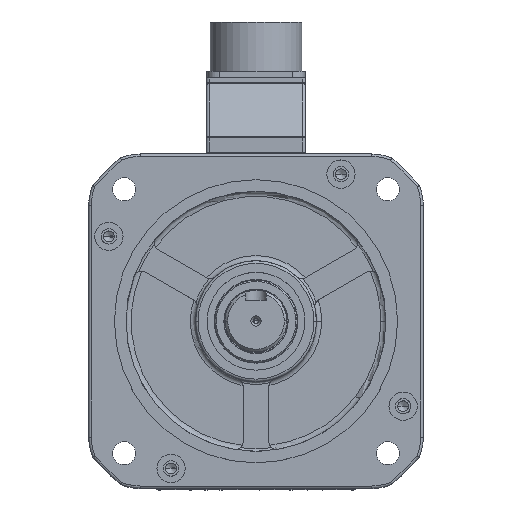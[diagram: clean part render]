
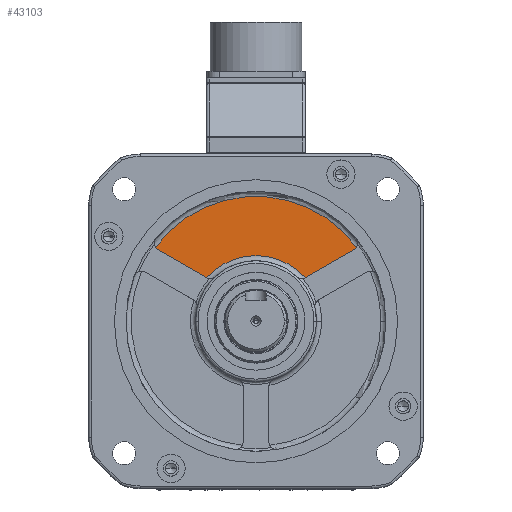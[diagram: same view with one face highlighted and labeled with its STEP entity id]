
A CAD part, top view. The second image highlights one B-rep face of the part: STEP entity #43103.
In plain terms, the highlighted planar face has unit normal (0, 0, 1).
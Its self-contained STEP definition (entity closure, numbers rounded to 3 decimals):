
#25 = CIRCLE ( 'NONE', #70859, 3. ) ;
#1523 = CARTESIAN_POINT ( 'NONE',  ( 0., 0., 0.5 ) ) ;
#1854 = CIRCLE ( 'NONE', #15210, 3. ) ;
#2088 = DIRECTION ( 'NONE',  ( 1., 0., 0. ) ) ;
#4271 = ORIENTED_EDGE ( 'NONE', *, *, #24203, .T. ) ;
#5221 = VERTEX_POINT ( 'NONE', #26038 ) ;
#6080 = CARTESIAN_POINT ( 'NONE',  ( 0., 0., 0.5 ) ) ;
#7171 = DIRECTION ( 'NONE',  ( 1., 0., 0. ) ) ;
#8283 = CARTESIAN_POINT ( 'NONE',  ( -39.078, 28.726, 0.5 ) ) ;
#8356 = CARTESIAN_POINT ( 'NONE',  ( -17.879, 19.56, 0.5 ) ) ;
#10527 = VERTEX_POINT ( 'NONE', #44608 ) ;
#11227 = DIRECTION ( 'NONE',  ( 0., 0., 1. ) ) ;
#13427 = CARTESIAN_POINT ( 'NONE',  ( 17.879, 19.56, 0.5 ) ) ;
#13593 = CARTESIAN_POINT ( 'NONE',  ( -36.549, 30.339, 0.5 ) ) ;
#15210 = AXIS2_PLACEMENT_3D ( 'NONE', #52001, #44496, #19004 ) ;
#15657 = CARTESIAN_POINT ( 'NONE',  ( -2.5, 4.33, 0.5 ) ) ;
#16674 = DIRECTION ( 'NONE',  ( 1., 0., 0. ) ) ;
#18220 = DIRECTION ( 'NONE',  ( 1., 0., 0. ) ) ;
#19004 = DIRECTION ( 'NONE',  ( 1., 0., 0. ) ) ;
#19459 = DIRECTION ( 'NONE',  ( 1., 0., 0. ) ) ;
#19762 = CARTESIAN_POINT ( 'NONE',  ( 38.049, 27.741, 0.5 ) ) ;
#20546 = DIRECTION ( 'NONE',  ( 0., 0., 1. ) ) ;
#21052 = CIRCLE ( 'NONE', #69111, 3. ) ;
#21678 = AXIS2_PLACEMENT_3D ( 'NONE', #1523, #57157, #52114 ) ;
#22542 = CARTESIAN_POINT ( 'NONE',  ( 39.078, 28.726, 0.5 ) ) ;
#24203 = EDGE_CURVE ( 'NONE', #60634, #10527, #21052, .T. ) ;
#24626 = LINE ( 'NONE', #69789, #72233 ) ;
#25688 = CIRCLE ( 'NONE', #21678, 25.5 ) ;
#26038 = CARTESIAN_POINT ( 'NONE',  ( 19.147, 16.841, 0.5 ) ) ;
#28292 = CARTESIAN_POINT ( 'NONE',  ( -19.379, 16.962, 0.5 ) ) ;
#35909 = DIRECTION ( 'NONE',  ( -0.866, 0.5, 0. ) ) ;
#36229 = EDGE_CURVE ( 'NONE', #51847, #55439, #1854, .T. ) ;
#37581 = PLANE ( 'NONE',  #59040 ) ;
#38264 = DIRECTION ( 'NONE',  ( 0., 0., 1. ) ) ;
#38376 = ORIENTED_EDGE ( 'NONE', *, *, #66918, .T. ) ;
#39112 = DIRECTION ( 'NONE',  ( 0., 0., 1. ) ) ;
#40420 = CIRCLE ( 'NONE', #45797, 3. ) ;
#40562 = EDGE_CURVE ( 'NONE', #60634, #48991, #24626, .T. ) ;
#41159 = DIRECTION ( 'NONE',  ( 0.866, 0.5, 0. ) ) ;
#42352 = CARTESIAN_POINT ( 'NONE',  ( 19.379, 16.962, 0.5 ) ) ;
#43103 = ADVANCED_FACE ( 'NONE', ( #55979 ), #37581, .T. ) ;
#43193 = AXIS2_PLACEMENT_3D ( 'NONE', #6080, #38264, #18220 ) ;
#44496 = DIRECTION ( 'NONE',  ( 0., 0., 1. ) ) ;
#44608 = CARTESIAN_POINT ( 'NONE',  ( -19.147, 16.841, 0.5 ) ) ;
#45797 = AXIS2_PLACEMENT_3D ( 'NONE', #13593, #39112, #19459 ) ;
#48811 = ORIENTED_EDGE ( 'NONE', *, *, #61924, .T. ) ;
#48991 = VERTEX_POINT ( 'NONE', #71444 ) ;
#49890 = CIRCLE ( 'NONE', #43193, 48.5 ) ;
#49992 = VERTEX_POINT ( 'NONE', #8283 ) ;
#51847 = VERTEX_POINT ( 'NONE', #19762 ) ;
#52001 = CARTESIAN_POINT ( 'NONE',  ( 36.549, 30.339, 0.5 ) ) ;
#52082 = VECTOR ( 'NONE', #41159, 1000. ) ;
#52114 = DIRECTION ( 'NONE',  ( 1., 0., 0. ) ) ;
#55439 = VERTEX_POINT ( 'NONE', #22542 ) ;
#55979 = FACE_OUTER_BOUND ( 'NONE', #77204, .T. ) ;
#56796 = EDGE_CURVE ( 'NONE', #69926, #51847, #72982, .T. ) ;
#57157 = DIRECTION ( 'NONE',  ( 0., 0., -1. ) ) ;
#58490 = EDGE_CURVE ( 'NONE', #5221, #69926, #25, .T. ) ;
#59040 = AXIS2_PLACEMENT_3D ( 'NONE', #81113, #11227, #16674 ) ;
#60634 = VERTEX_POINT ( 'NONE', #28292 ) ;
#61924 = EDGE_CURVE ( 'NONE', #49992, #48991, #40420, .T. ) ;
#66918 = EDGE_CURVE ( 'NONE', #10527, #5221, #25688, .T. ) ;
#67033 = ORIENTED_EDGE ( 'NONE', *, *, #40562, .F. ) ;
#69111 = AXIS2_PLACEMENT_3D ( 'NONE', #8356, #71533, #2088 ) ;
#69789 = CARTESIAN_POINT ( 'NONE',  ( 2.5, 4.33, 0.5 ) ) ;
#69926 = VERTEX_POINT ( 'NONE', #42352 ) ;
#70859 = AXIS2_PLACEMENT_3D ( 'NONE', #13427, #20546, #7171 ) ;
#71444 = CARTESIAN_POINT ( 'NONE',  ( -38.049, 27.741, 0.5 ) ) ;
#71479 = ORIENTED_EDGE ( 'NONE', *, *, #56796, .T. ) ;
#71533 = DIRECTION ( 'NONE',  ( 0., 0., 1. ) ) ;
#72233 = VECTOR ( 'NONE', #35909, 1000. ) ;
#72982 = LINE ( 'NONE', #15657, #52082 ) ;
#76352 = ORIENTED_EDGE ( 'NONE', *, *, #80380, .T. ) ;
#77204 = EDGE_LOOP ( 'NONE', ( #4271, #38376, #77240, #71479, #82722, #76352, #48811, #67033 ) ) ;
#77240 = ORIENTED_EDGE ( 'NONE', *, *, #58490, .T. ) ;
#80380 = EDGE_CURVE ( 'NONE', #55439, #49992, #49890, .T. ) ;
#81113 = CARTESIAN_POINT ( 'NONE',  ( 0., 0., 0.5 ) ) ;
#82722 = ORIENTED_EDGE ( 'NONE', *, *, #36229, .T. ) ;
